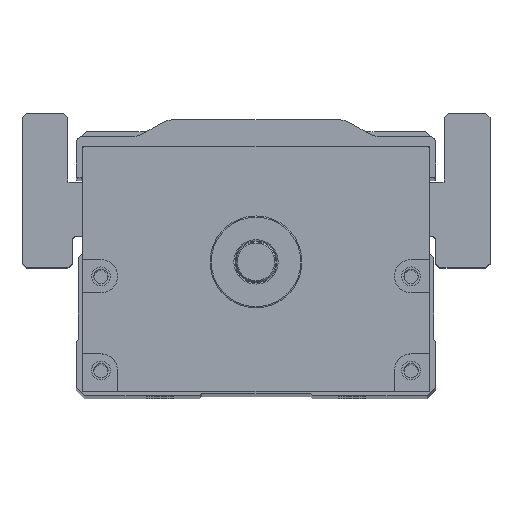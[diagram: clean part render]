
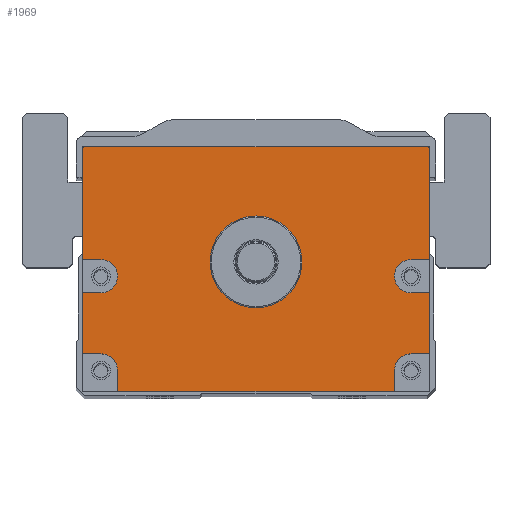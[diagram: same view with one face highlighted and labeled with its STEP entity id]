
A CAD part, top view. The second image highlights one B-rep face of the part: STEP entity #1969.
In plain terms, the highlighted planar face has unit normal (0, 0, 1).
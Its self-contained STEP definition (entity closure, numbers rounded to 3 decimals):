
#954=FACE_BOUND('',#3579,.T.);
#955=FACE_BOUND('',#3580,.T.);
#1444=CIRCLE('',#12079,11.);
#1455=CIRCLE('',#12093,4.);
#1456=CIRCLE('',#12094,4.);
#1457=CIRCLE('',#12095,4.);
#1458=CIRCLE('',#12096,4.);
#1969=ADVANCED_FACE('',(#954,#955),#2511,.T.);
#2511=PLANE('',#12097);
#3579=EDGE_LOOP('',(#5287,#5288,#5289,#5290,#5291,#5292,#5293,#5294,#5295,
#5296,#5297,#5298,#5299,#5300,#5301,#5302,#5303,#5304));
#3580=EDGE_LOOP('',(#5305));
#5287=ORIENTED_EDGE('',*,*,#9006,.F.);
#5288=ORIENTED_EDGE('',*,*,#9007,.T.);
#5289=ORIENTED_EDGE('',*,*,#9008,.F.);
#5290=ORIENTED_EDGE('',*,*,#9009,.F.);
#5291=ORIENTED_EDGE('',*,*,#9010,.F.);
#5292=ORIENTED_EDGE('',*,*,#9011,.T.);
#5293=ORIENTED_EDGE('',*,*,#9002,.T.);
#5294=ORIENTED_EDGE('',*,*,#9012,.T.);
#5295=ORIENTED_EDGE('',*,*,#9013,.F.);
#5296=ORIENTED_EDGE('',*,*,#9014,.F.);
#5297=ORIENTED_EDGE('',*,*,#9015,.F.);
#5298=ORIENTED_EDGE('',*,*,#9016,.T.);
#5299=ORIENTED_EDGE('',*,*,#9017,.F.);
#5300=ORIENTED_EDGE('',*,*,#9018,.F.);
#5301=ORIENTED_EDGE('',*,*,#9019,.F.);
#5302=ORIENTED_EDGE('',*,*,#9020,.T.);
#5303=ORIENTED_EDGE('',*,*,#9021,.F.);
#5304=ORIENTED_EDGE('',*,*,#9022,.F.);
#5305=ORIENTED_EDGE('',*,*,#8988,.T.);
#7718=VERTEX_POINT('',#25702);
#7731=VERTEX_POINT('',#25730);
#7732=VERTEX_POINT('',#25732);
#7735=VERTEX_POINT('',#25740);
#7736=VERTEX_POINT('',#25741);
#7737=VERTEX_POINT('',#25743);
#7738=VERTEX_POINT('',#25745);
#7739=VERTEX_POINT('',#25747);
#7740=VERTEX_POINT('',#25749);
#7741=VERTEX_POINT('',#25752);
#7742=VERTEX_POINT('',#25754);
#7743=VERTEX_POINT('',#25756);
#7744=VERTEX_POINT('',#25758);
#7745=VERTEX_POINT('',#25760);
#7746=VERTEX_POINT('',#25762);
#7747=VERTEX_POINT('',#25764);
#7748=VERTEX_POINT('',#25766);
#7749=VERTEX_POINT('',#25768);
#7750=VERTEX_POINT('',#25770);
#8988=EDGE_CURVE('',#7718,#7718,#1444,.T.);
#9002=EDGE_CURVE('',#7732,#7731,#10254,.T.);
#9006=EDGE_CURVE('',#7735,#7736,#10256,.T.);
#9007=EDGE_CURVE('',#7735,#7737,#10257,.T.);
#9008=EDGE_CURVE('',#7738,#7737,#10258,.T.);
#9009=EDGE_CURVE('',#7739,#7738,#1455,.T.);
#9010=EDGE_CURVE('',#7740,#7739,#10259,.T.);
#9011=EDGE_CURVE('',#7740,#7732,#10260,.T.);
#9012=EDGE_CURVE('',#7731,#7741,#10261,.T.);
#9013=EDGE_CURVE('',#7742,#7741,#10262,.T.);
#9014=EDGE_CURVE('',#7743,#7742,#1456,.T.);
#9015=EDGE_CURVE('',#7744,#7743,#10263,.T.);
#9016=EDGE_CURVE('',#7744,#7745,#10264,.T.);
#9017=EDGE_CURVE('',#7746,#7745,#10265,.T.);
#9018=EDGE_CURVE('',#7747,#7746,#1457,.T.);
#9019=EDGE_CURVE('',#7748,#7747,#10266,.T.);
#9020=EDGE_CURVE('',#7748,#7749,#10267,.T.);
#9021=EDGE_CURVE('',#7750,#7749,#10268,.T.);
#9022=EDGE_CURVE('',#7736,#7750,#1458,.T.);
#10254=LINE('',#25731,#11091);
#10256=LINE('',#25739,#11093);
#10257=LINE('',#25742,#11094);
#10258=LINE('',#25744,#11095);
#10259=LINE('',#25748,#11096);
#10260=LINE('',#25750,#11097);
#10261=LINE('',#25751,#11098);
#10262=LINE('',#25753,#11099);
#10263=LINE('',#25757,#11100);
#10264=LINE('',#25759,#11101);
#10265=LINE('',#25761,#11102);
#10266=LINE('',#25765,#11103);
#10267=LINE('',#25767,#11104);
#10268=LINE('',#25769,#11105);
#11091=VECTOR('',#13843,1.);
#11093=VECTOR('',#13851,1.);
#11094=VECTOR('',#13852,1.);
#11095=VECTOR('',#13853,1.);
#11096=VECTOR('',#13856,1.);
#11097=VECTOR('',#13857,1.);
#11098=VECTOR('',#13858,1.);
#11099=VECTOR('',#13859,1.);
#11100=VECTOR('',#13862,1.);
#11101=VECTOR('',#13863,1.);
#11102=VECTOR('',#13864,1.);
#11103=VECTOR('',#13867,1.);
#11104=VECTOR('',#13868,1.);
#11105=VECTOR('',#13869,1.);
#12079=AXIS2_PLACEMENT_3D('',#25701,#13816,#13817);
#12093=AXIS2_PLACEMENT_3D('',#25746,#13854,#13855);
#12094=AXIS2_PLACEMENT_3D('',#25755,#13860,#13861);
#12095=AXIS2_PLACEMENT_3D('',#25763,#13865,#13866);
#12096=AXIS2_PLACEMENT_3D('',#25771,#13870,#13871);
#12097=AXIS2_PLACEMENT_3D('',#25772,#13872,#13873);
#13816=DIRECTION('',(0.,0.,-1.));
#13817=DIRECTION('',(1.,0.,0.));
#13843=DIRECTION('',(-1.,0.,0.));
#13851=DIRECTION('',(-1.,0.,0.));
#13852=DIRECTION('',(0.,1.,0.));
#13853=DIRECTION('',(1.,0.,0.));
#13854=DIRECTION('',(0.,0.,1.));
#13855=DIRECTION('',(1.,0.,0.));
#13856=DIRECTION('',(-1.,0.,0.));
#13857=DIRECTION('',(0.,1.,0.));
#13858=DIRECTION('',(0.,-1.,0.));
#13859=DIRECTION('',(-1.,0.,0.));
#13860=DIRECTION('',(0.,0.,1.));
#13861=DIRECTION('',(1.,0.,0.));
#13862=DIRECTION('',(1.,0.,0.));
#13863=DIRECTION('',(0.,-1.,0.));
#13864=DIRECTION('',(-1.,0.,0.));
#13865=DIRECTION('',(0.,0.,1.));
#13866=DIRECTION('',(1.,0.,0.));
#13867=DIRECTION('',(0.,1.,0.));
#13868=DIRECTION('',(1.,0.,0.));
#13869=DIRECTION('',(0.,-1.,0.));
#13870=DIRECTION('',(0.,0.,1.));
#13871=DIRECTION('',(1.,0.,0.));
#13872=DIRECTION('',(0.,0.,1.));
#13873=DIRECTION('',(1.,0.,0.));
#25701=CARTESIAN_POINT('',(600.,0.,282.5));
#25702=CARTESIAN_POINT('',(611.,0.,282.5));
#25730=CARTESIAN_POINT('',(558.5,27.5,282.5));
#25731=CARTESIAN_POINT('',(641.5,27.5,282.5));
#25732=CARTESIAN_POINT('',(641.5,27.5,282.5));
#25739=CARTESIAN_POINT('',(641.5,-22.,282.5));
#25740=CARTESIAN_POINT('',(641.5,-22.,282.5));
#25741=CARTESIAN_POINT('',(637.115,-22.,282.5));
#25742=CARTESIAN_POINT('',(641.5,-31.,282.5));
#25743=CARTESIAN_POINT('',(641.5,-7.431,282.5));
#25744=CARTESIAN_POINT('',(641.5,-7.431,282.5));
#25745=CARTESIAN_POINT('',(637.115,-7.431,282.5));
#25746=CARTESIAN_POINT('',(637.115,-3.431,282.5));
#25747=CARTESIAN_POINT('',(637.115,0.569,282.5));
#25748=CARTESIAN_POINT('',(641.5,0.569,282.5));
#25749=CARTESIAN_POINT('',(641.5,0.569,282.5));
#25750=CARTESIAN_POINT('',(641.5,-31.,282.5));
#25751=CARTESIAN_POINT('',(558.5,27.5,282.5));
#25752=CARTESIAN_POINT('',(558.5,0.569,282.5));
#25753=CARTESIAN_POINT('',(641.5,0.569,282.5));
#25754=CARTESIAN_POINT('',(562.885,0.569,282.5));
#25755=CARTESIAN_POINT('',(562.885,-3.431,282.5));
#25756=CARTESIAN_POINT('',(562.885,-7.431,282.5));
#25757=CARTESIAN_POINT('',(641.5,-7.431,282.5));
#25758=CARTESIAN_POINT('',(558.5,-7.431,282.5));
#25759=CARTESIAN_POINT('',(558.5,27.5,282.5));
#25760=CARTESIAN_POINT('',(558.5,-22.,282.5));
#25761=CARTESIAN_POINT('',(641.5,-22.,282.5));
#25762=CARTESIAN_POINT('',(562.885,-22.,282.5));
#25763=CARTESIAN_POINT('',(562.885,-26.,282.5));
#25764=CARTESIAN_POINT('',(566.885,-26.,282.5));
#25765=CARTESIAN_POINT('',(566.885,-31.,282.5));
#25766=CARTESIAN_POINT('',(566.885,-31.,282.5));
#25767=CARTESIAN_POINT('',(558.5,-31.,282.5));
#25768=CARTESIAN_POINT('',(633.115,-31.,282.5));
#25769=CARTESIAN_POINT('',(633.115,-31.,282.5));
#25770=CARTESIAN_POINT('',(633.115,-26.,282.5));
#25771=CARTESIAN_POINT('',(637.115,-26.,282.5));
#25772=CARTESIAN_POINT('',(641.5,-31.,282.5));
